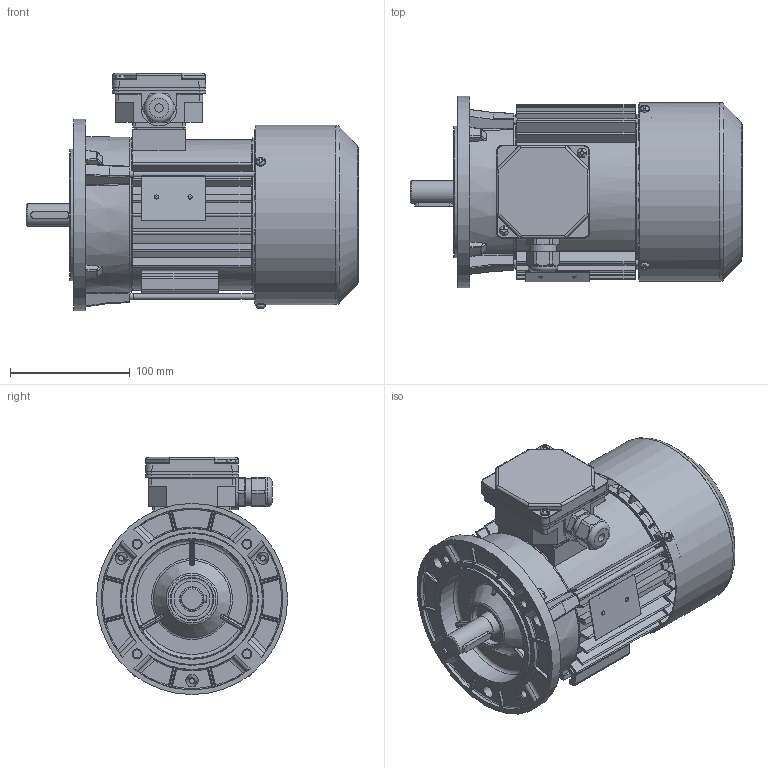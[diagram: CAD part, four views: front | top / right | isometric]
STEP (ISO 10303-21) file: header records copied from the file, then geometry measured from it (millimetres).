
FILE_DESCRIPTION(/* description */ ('Unknown'),/* implementation_level */ '2;1');
FILE_NAME(/* name */ '2SIEK80-6A1',/* time_stamp */ '2021-04-12T14:51:52+02:00',/* author */ ('Unknown'),/* organization */ ('Unknown'),/* preprocessor_version */ 'ST-DEVELOPER v16.7',/* originating_system */ 'Solid Edge',/* authorisation */ 'Unknown');
FILE_SCHEMA (('AUTOMOTIVE_DESIGN {1 0 10303 214 3 1 1}'));
Products named in the file (1): 2SIEK80-6A1
Bounding box: 277.78 x 160 x 198.5 mm (x, y, z)
Volume: 879573.8 mm3; surface area: 502581.1 mm2
Topology: 3 solids, 3 shells, 2800 faces, 7674 edges, 4933 vertices
Faces by surface type: plane 1219, cylinder 805, bspline 358, torus 224, cone 166, sphere 28
Full cylindrical faces by diameter (mm): 2 x2, 2.4 x2, 3.7 x8, 4 x4, 4.2 x3, 4.5 x1, 4.6 x3, 4.8 x2, 5 x5, 5.5 x3, 6.8 x4, 7 x1, 8 x9, 18.998 x1, 19.298 x1, 19.498 x1, 20.298 x2, 20.398 x2, 20.4 x2, 22.3 x1, 25 x1, 25.497 x1, 25.997 x2, 26.097 x1, 26.997 x1, 28.799 x4, 30 x1, 34 x1, 35 x1, 38.198 x4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
Entity records: 113761 total; most frequent: CARTESIAN_POINT 28258, ORIENTED_EDGE 14656, DIRECTION 13106, EDGE_CURVE 7328, AXIS2_PLACEMENT_3D 4917, VERTEX_POINT 4805, FACE_BOUND 3277, EDGE_LOOP 3273
